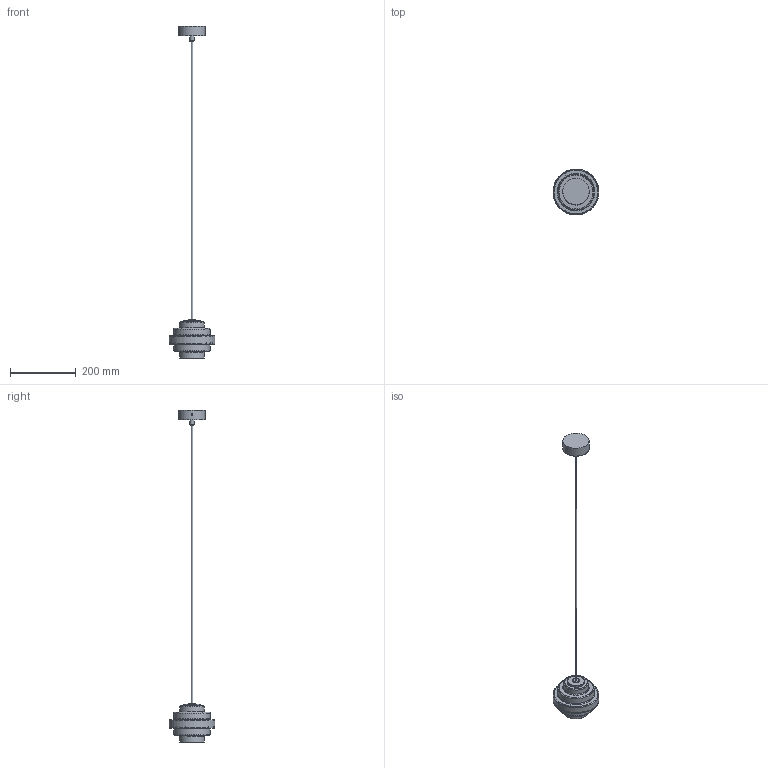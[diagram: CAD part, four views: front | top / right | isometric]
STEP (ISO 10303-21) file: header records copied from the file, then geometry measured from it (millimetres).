
FILE_DESCRIPTION ((), '1');
FILE_NAME ('C:\Users\MICHAL\Desktop\ALDEX - Modele 3D 01.10.2024\9002PL_G1_L\9002PL_G1_L.stp', '2024-10-02T16:34:04', ('Unknown'), ('Unknown'), 'HarmonyWare STEP v1.5.0', 'HarmonyWare Translators', '');
FILE_SCHEMA (('CONFIG_CONTROL_DESIGN'));
Length unit declared in the file: centimetre
Products named in the file (10): product-name
Bounding box: 139.79 x 139.9 x 1010 mm (x, y, z)
Volume: 181640.4 mm3; surface area: 154422.9 mm2
Topology: 7 solids, 9 shells, 68 faces, 142 edges, 112 vertices
Faces by surface type: bspline 68
Entity records: 8321 total; most frequent: CARTESIAN_POINT 6494, ORIENTED_EDGE 224, EDGE_CURVE 113, PERSON 80, ORGANIZATION 80, PERSON_AND_ORGANIZATION 80, EDGE_LOOP 68, FACE_OUTER_BOUND 68
